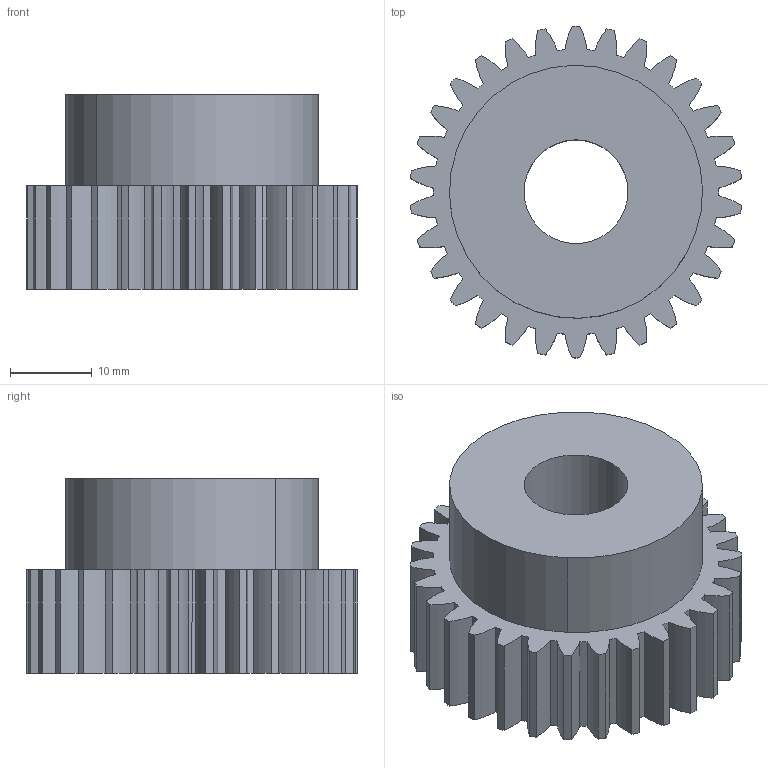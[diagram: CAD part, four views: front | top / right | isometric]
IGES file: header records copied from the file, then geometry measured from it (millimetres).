
Global section: file name: C:\Documents and Settings\Administrator\Desktop\Transfer Temp\gss-2030.igs; native system: AutoDesk Inventor R2.0 ; preprocessor: AutoDesk Inventor Iges Exporter R2.0; author: No Author specified; organization: No Organization specified; date: 20011226.200204; units: inch
Bounding box: 40.51 x 40.64 x 23.88 mm (x, y, z)
Surface area: 7084 mm2 (no closed solid volume)
Topology: 0 solids, 0 shells, 129 faces, 756 edges, 756 vertices
Faces by surface type: revolution 124, bspline 5
